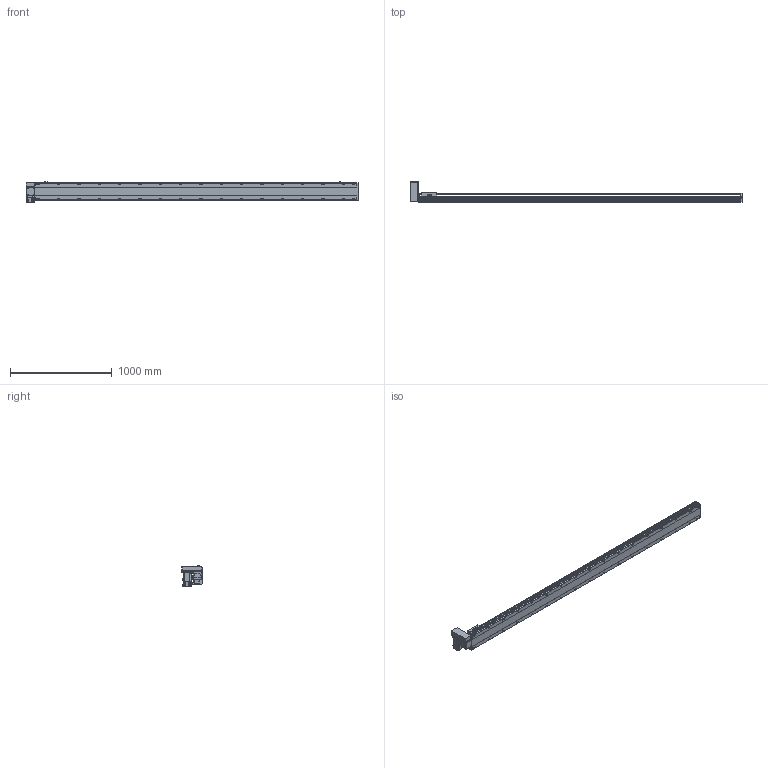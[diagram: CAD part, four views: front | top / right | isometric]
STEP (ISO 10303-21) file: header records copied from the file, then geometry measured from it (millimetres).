
FILE_DESCRIPTION(/* description */ ('STEP AP214'),/* implementation_level */ '2;1');
FILE_NAME(/* name */ 'PBS170-P40-S2900-RU-T75-C1-N(0)',/* time_stamp */ '2022-06-08T08:01:24+02:00',/* author */ ('License CC BY-ND 4.0'),/* organization */ ('CADENAS'),/* preprocessor_version */ 'ST-DEVELOPER v18.102',/* originating_system */ 'PARTsolutions',/* authorisation */ ' ');
FILE_SCHEMA (('AUTOMOTIVE_DESIGN {1 0 10303 214 3 1 1}'));
Length unit declared in the file: millimetre
Products named in the file (7): PBS170-P40-S2900-RU-T75-C1-N(0); PBS170_sensor; PBS170_plant; PBS170_sliser; T75-p1; PBS170T-RU_motors; PBS170-S2900()_body
Assembly tree (8 placements, depth 2):
  PBS170-P40-S2900-RU-T75-C1-N(0)
    PBS170_sensor  x3
    PBS170_plant
    PBS170_sliser
    T75-p1
    PBS170T-RU_motors
    PBS170-S2900()_body
Bounding box: 3263 x 206 x 205.3 mm (x, y, z)
Volume: 24527411.8 mm3; surface area: 3073959.6 mm2
Topology: 8 solids, 8 shells, 1226 faces, 3235 edges, 2108 vertices
Faces by surface type: plane 741, cylinder 411, cone 64, sphere 8, torus 2
Full cylindrical faces by diameter (mm): 3.242 x4, 4 x2, 4.4 x4, 4.5 x6, 4.917 x4, 6 x9, 6.647 x42, 7 x2, 7.5 x4, 8 x8, 8.5 x34, 10 x4, 10.5 x34, 11 x2, 30 x2, 40 x1, 70 x1
Entity records: 35240 total; most frequent: CARTESIAN_POINT 6721, DIRECTION 5930, ORIENTED_EDGE 5568, EDGE_CURVE 2784, AXIS2_PLACEMENT_3D 2107, VERTEX_POINT 1946, LINE 1716, VECTOR 1716
